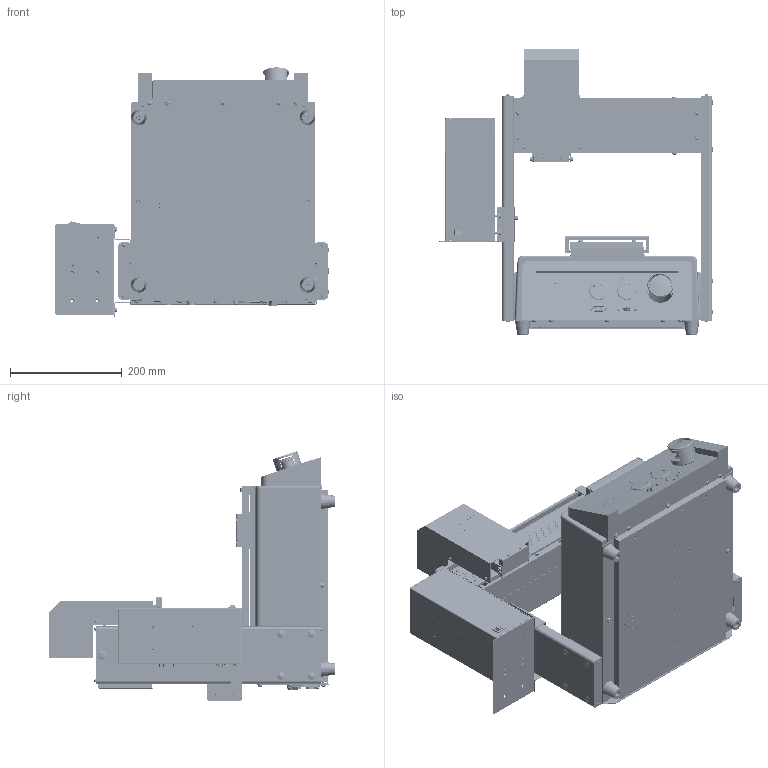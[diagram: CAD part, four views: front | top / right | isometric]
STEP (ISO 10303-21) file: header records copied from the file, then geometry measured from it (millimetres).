
FILE_DESCRIPTION(('FreeCAD Model'),'2;1');
FILE_NAME('C:/Users/martin.stroffek/Desktop/robots/EV/7361349_Nordson_EFD_ROBOT_E2V_3AXIS_150X200X50MM_3Dmodel.step','2020-02-02T09:27:49',('Author'),( ''),'Open CASCADE STEP processor 7.2','FreeCAD','Unknown');
FILE_SCHEMA(('AUTOMOTIVE_DESIGN { 1 0 10303 214 1 1 1 1 }'));
Length unit declared in the file: millimetre
Products named in the file (6): NORDSONEFD_7361349_ROBOT_E2V_3_AXIS_200X200X50MM; NORDSONEFD-7361349_ROBOT_E2V_3_AXIS_200X200X50MM_E2-Base; NORDSONEFD-7361349_ROBOT_E2V_3_AXIS_200X200X50MM_E2-Fixture_plate; NORDSONEFD-7361349_ROBOT_E2V_3_AXIS_200X200X50MM_E2-Z_head; NORDSONEFD-7361349_ROBOT_E2V_3_AXIS_200X200X50MM_E2-X_carriage; NORDSONEFD-7361349_ROBOT_E2V_3_AXIS_200X200X50MM_PC
Assembly tree (5 placements, depth 2):
  NORDSONEFD_7361349_ROBOT_E2V_3_AXIS_200X200X50MM
    NORDSONEFD-7361349_ROBOT_E2V_3_AXIS_200X200X50MM_E2-Base
    NORDSONEFD-7361349_ROBOT_E2V_3_AXIS_200X200X50MM_E2-Fixture_plate
    NORDSONEFD-7361349_ROBOT_E2V_3_AXIS_200X200X50MM_E2-Z_head
    NORDSONEFD-7361349_ROBOT_E2V_3_AXIS_200X200X50MM_E2-X_carriage
    NORDSONEFD-7361349_ROBOT_E2V_3_AXIS_200X200X50MM_PC
Bounding box: 489.23 x 510.25 x 445.66 mm (x, y, z)
Volume: 4627625.5 mm3; surface area: 2656819.1 mm2
Topology: 5 solids, 5 shells, 12476 faces, 33618 edges, 21852 vertices
Faces by surface type: plane 6190, cylinder 2633, bspline 2086, cone 1501, sphere 39, revolution 16, torus 11
Entity records: 1184672 total; most frequent: CARTESIAN_POINT 477423, DIRECTION 101443, ORIENTED_EDGE 66578, PCURVE 66578, DEFINITIONAL_REPRESENTATION 66578, LINE 61511, VECTOR 61511, EDGE_CURVE 33289
